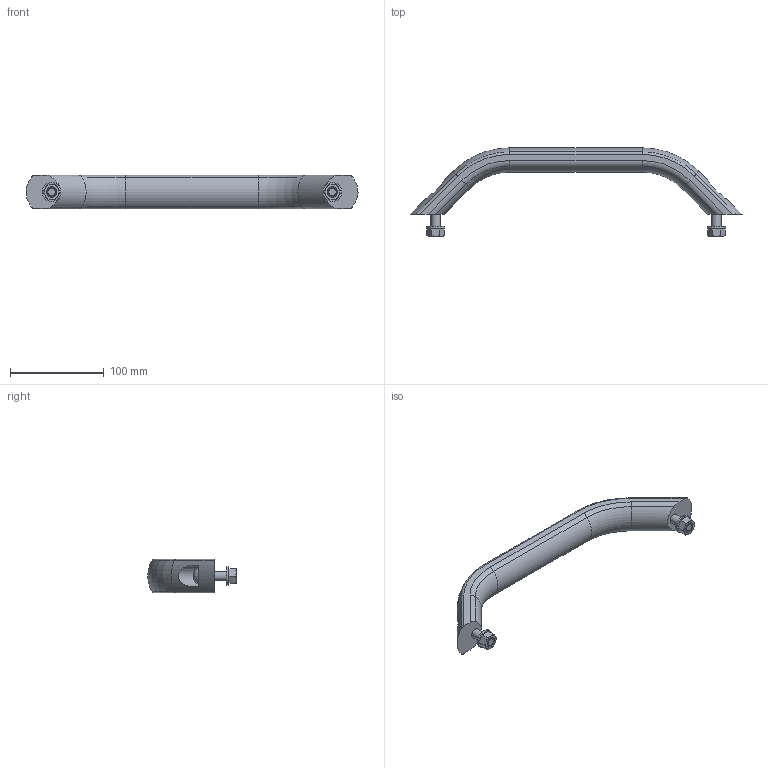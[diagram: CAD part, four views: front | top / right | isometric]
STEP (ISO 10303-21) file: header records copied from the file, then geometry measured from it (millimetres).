
FILE_DESCRIPTION( ( 'STEP AP203' ), '1' );
FILE_NAME( 'C:/Temp/Ganter_Step_05_03_2020/data/1_2/gn_428/gn_428_b/Cabinet U-handle GN 428-AL-36-300-B-SW.stp', '2020-03-05T10:11:37', ( 'License CC BY-ND 4.0' ), ( 'CADENAS' ), ' ', 'PARTsolutions', ' ' );
FILE_SCHEMA( ( 'CONFIG_CONTROL_DESIGN' ) );
Length unit declared in the file: millimetre
Products named in the file (1): _Cabinet U-handle GN 428-AL-36-300-B-SW
Bounding box: 354.73 x 94.31 x 36 mm (x, y, z)
Volume: 278179.8 mm3; surface area: 45788 mm2
Topology: 1 solids, 1 shells, 124 faces, 268 edges, 164 vertices
Faces by surface type: plane 50, cylinder 30, cone 30, torus 12, bspline 2
Full cylindrical faces by diameter (mm): 10 x2, 10.5 x2, 11 x2, 17.5 x2, 20 x2
Entity records: 3610 total; most frequent: CARTESIAN_POINT 967, DIRECTION 554, ORIENTED_EDGE 496, EDGE_CURVE 248, AXIS2_PLACEMENT_3D 233, VERTEX_POINT 162, EDGE_LOOP 160, FACE_OUTER_BOUND 136
